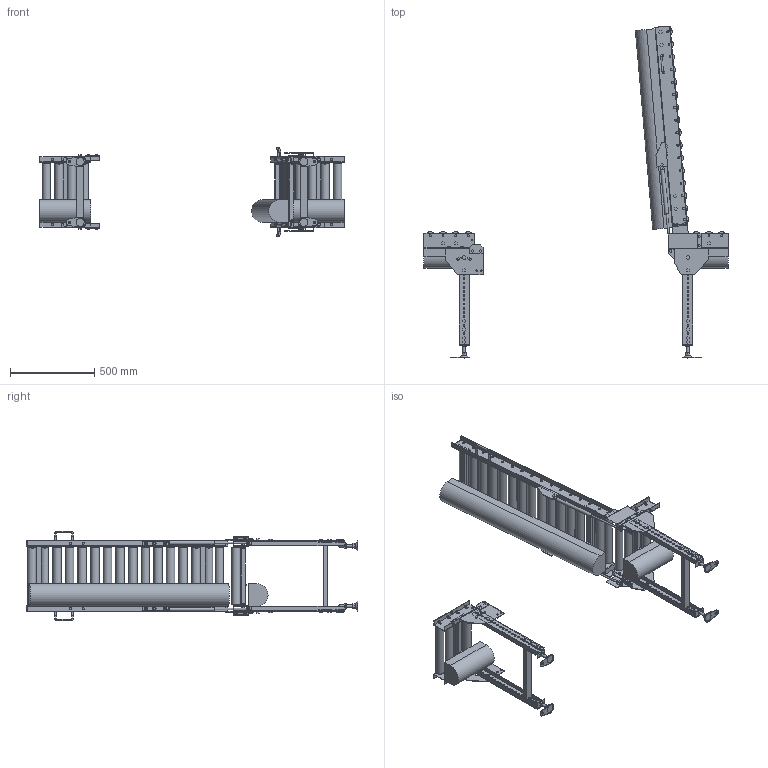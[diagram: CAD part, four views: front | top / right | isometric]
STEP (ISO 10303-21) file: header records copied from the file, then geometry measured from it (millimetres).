
FILE_DESCRIPTION( (''), '2;1');
FILE_NAME ('WEB-MCD50-355-75-120-R-HU.stp','2025-07-01T16:00:52',(''),(''),'spGate 20.6.2 (****-****-****-****)','','');
FILE_SCHEMA (('AUTOMOTIVE_DESIGN'));
Length unit declared in the file: millimetre
Products named in the file (30): WEB-MCD50-355-75-120-R-HU; TEMP_X_T-prt0; TEMP_X_T-prt1; TEMP_X_T-prt2; TEMP_X_T-prt3; TEMP_X_T-prt4; TEMP_X_T-prt5; TEMP_X_T-prt6; TEMP_X_T-prt7; TEMP_X_T-prt8; TEMP_X_T-prt9; TEMP_X_T-prt10; TEMP_X_T-prt11; TEMP_X_T-prt12; TEMP_X_T-prt13; TEMP_X_T-prt14; TEMP_X_T-prt15; TEMP_X_T-prt16; TEMP_X_T-prt17; TEMP_X_T-prt18; TEMP_X_T-prt19; TEMP_X_T-prt20; TEMP_X_T-prt21; TEMP_X_T-prt22; TEMP_X_T-prt23; TEMP_X_T-prt24; TEMP_X_T-prt25; TEMP_X_T-prt26; TEMP_X_T-prt27; TEMP_X_T-prt28
Assembly tree (29 placements, depth 2):
  WEB-MCD50-355-75-120-R-HU
    TEMP_X_T-prt0
    TEMP_X_T-prt1
    TEMP_X_T-prt2
    TEMP_X_T-prt3
    TEMP_X_T-prt4
    TEMP_X_T-prt5
    TEMP_X_T-prt6
    TEMP_X_T-prt7
    TEMP_X_T-prt8
    TEMP_X_T-prt9
    TEMP_X_T-prt10
    TEMP_X_T-prt11
    TEMP_X_T-prt12
    TEMP_X_T-prt13
    TEMP_X_T-prt14
    TEMP_X_T-prt15
    TEMP_X_T-prt16
    TEMP_X_T-prt17
    TEMP_X_T-prt18
    TEMP_X_T-prt19
    TEMP_X_T-prt20
    TEMP_X_T-prt21
    TEMP_X_T-prt22
    TEMP_X_T-prt23
    TEMP_X_T-prt24
    TEMP_X_T-prt25
    TEMP_X_T-prt26
    TEMP_X_T-prt27
    TEMP_X_T-prt28
Bounding box: 1800 x 1964.71 x 531.4 mm (x, y, z)
Volume: 47044059.8 mm3; surface area: 4740674.8 mm2
Topology: 29 solids, 55 shells, 2662 faces, 6742 edges, 4447 vertices
Faces by surface type: plane 2163, cylinder 481, bspline 18
Full cylindrical faces by diameter (mm): 8 x8, 8.5 x8, 9 x20, 10 x58, 10.5 x96, 11 x8, 12 x50, 13 x12, 14 x4, 15 x6, 15.4 x2, 15.7 x2, 16 x10, 17 x4, 18 x6, 18.4 x28, 18.5 x8, 21 x12, 22 x2, 50.8 x24
Entity records: 136776 total; most frequent: CARTESIAN_POINT 15385, DIRECTION 13680, ORIENTED_EDGE 13484, COLOUR_RGB 9433, PRESENTATION_STYLE_ASSIGNMENT 9433, STYLED_ITEM 9433, EDGE_CURVE 6742, DRAUGHTING_PRE_DEFINED_CURVE_FONT 6742
